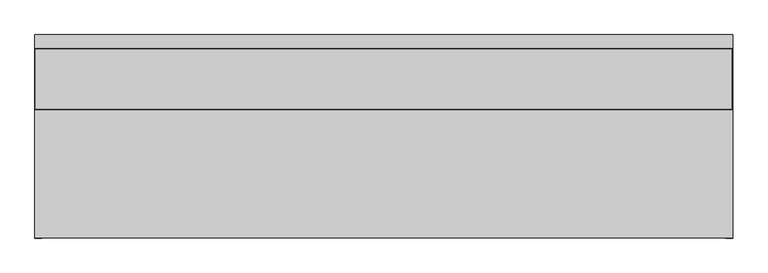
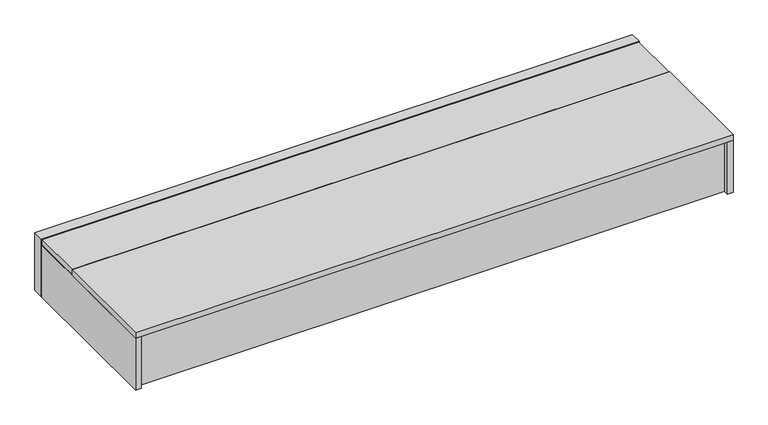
"""IFC4 building model written with IfcOpenShell, lengths in millimetres: proxy geometry, FOUNDATION^PO3_WIRE WALL-PARTS SOLID."""

import ifcopenshell
import ifcopenshell.guid

model = None  # the IFC model being written
_history = None  # IfcOwnerHistory: only IFC2X3 demands one
_inside = {}  # id of a spatial element -> (the spatial element, [elements in it])
_under = {}  # id of a project, library or spatial element -> (it, [spatial elements below it])
_declared = {}  # id of a project -> (the project, [libraries it declares])
_typed = {}  # id of a type object -> (the type object, [elements of that type])
_made_of = {}  # id of a material, layer set ... -> (it, [elements and type objects made of it])


def new_model(schema):
    """Start an empty IFC model of exactly this schema.

    Asked for "IFC4X3", IfcOpenShell would pick the latest addendum, in which some entities
    have other attributes; the version numbers below select the first issue.
    IFC2X3 requires an IfcOwnerHistory on every rooted entity: one is made here for all.
    """
    global model, _history
    if schema == "IFC4X3":
        model = ifcopenshell.file(schema_version=(4, 3, 0, 0))
    else:
        model = ifcopenshell.file(schema=schema)
    _inside.clear()
    _under.clear()
    _declared.clear()
    _typed.clear()
    _made_of.clear()
    _history = None
    if model.schema == "IFC2X3":
        org = make("IfcOrganization", Name="unknown")
        user = make(
            "IfcPersonAndOrganization",
            ThePerson=make("IfcPerson", FamilyName="unknown"),
            TheOrganization=org,
        )
        app = make(
            "IfcApplication",
            ApplicationDeveloper=org,
            Version="unknown",
            ApplicationFullName="unknown",
            ApplicationIdentifier="unknown",
        )
        _history = make(
            "IfcOwnerHistory",
            OwningUser=user,
            OwningApplication=app,
            ChangeAction="ADDED",
            CreationDate=0,
        )
    return model


def make(cls, **values):
    """One entity of the class cls with the attributes given. An attribute that is None is left unset."""
    return model.create_entity(
        cls, **{name: value for name, value in values.items() if value is not None}
    )


def rooted(cls, **values):
    """An entity with a GlobalId (a new one), such as an element, a storey or a relation."""
    return make(cls, GlobalId=ifcopenshell.guid.new(), OwnerHistory=_history, **values)


def si_unit(unit_type, name, prefix=None):
    """IfcSIUnit, for example si_unit("LENGTHUNIT", "METRE", prefix="MILLI")."""
    return make("IfcSIUnit", UnitType=unit_type, Prefix=prefix, Name=name)


def assignment(units):
    """IfcUnitAssignment: the units of a project."""
    return None if units is None else make("IfcUnitAssignment", Units=units)


def point(xyz):
    """IfcCartesianPoint."""
    return None if xyz is None else make("IfcCartesianPoint", Coordinates=xyz)


def direction(xyz):
    """IfcDirection."""
    return None if xyz is None else make("IfcDirection", DirectionRatios=xyz)


def frame(location, z_axis=None, x_axis=None):
    """IfcAxis2Placement3D, a coordinate frame: its origin and axes. An axis left out is left unset."""
    return make(
        "IfcAxis2Placement3D",
        Location=point(location),
        Axis=direction(z_axis),
        RefDirection=direction(x_axis),
    )


def origin():
    """The frame at (0, 0, 0) with its axes left unset."""
    return frame((0.0, 0.0, 0.0))


def place(relative_to, where):
    """IfcLocalPlacement: puts the frame where relative to a parent placement (None: the world)."""
    return make(
        "IfcLocalPlacement", PlacementRelTo=relative_to, RelativePlacement=where
    )


def context(
    kind, dimensions, precision=None, world=None, true_north=None, identifier=None
):
    """IfcGeometricRepresentationContext, for example the 3D "Model" context."""
    return make(
        "IfcGeometricRepresentationContext",
        ContextIdentifier=identifier,
        ContextType=kind,
        CoordinateSpaceDimension=dimensions,
        Precision=precision,
        WorldCoordinateSystem=world,
        TrueNorth=true_north,
    )


def project(units=None, contexts=None):
    """IfcProject with its units and contexts."""
    return rooted(
        "IfcProject",
        Name="project",
        RepresentationContexts=contexts,
        UnitsInContext=assignment(units),
    )


def spatial(cls, under=None, at=None, **own):
    """A site, building, storey or space (cls), placed at a placement, below another one or the project."""
    s = rooted(cls, ObjectPlacement=at, **own)
    if under is not None:
        _under.setdefault(under.id(), (under, []))[1].append(s)
    return s


def polyline(points):
    """IfcPolyline through the points."""
    return make("IfcPolyline", Points=[point(p) for p in points])


def outline(outer, holes=None, kind="AREA"):
    """IfcArbitraryClosedProfileDef: a profile drawn as a closed curve; with holes, ...WithVoids."""
    if holes is None:
        return make("IfcArbitraryClosedProfileDef", ProfileType=kind, OuterCurve=outer)
    return make(
        "IfcArbitraryProfileDefWithVoids",
        ProfileType=kind,
        OuterCurve=outer,
        InnerCurves=holes,
    )


def extrude(swept, where, along, depth):
    """IfcExtrudedAreaSolid: the profile swept, set in the frame where, extruded along a direction by depth."""
    return make(
        "IfcExtrudedAreaSolid",
        SweptArea=swept,
        Position=where,
        ExtrudedDirection=direction(along),
        Depth=depth,
    )


def shape(context_of_items, identifier, shape_type, items):
    """IfcShapeRepresentation: the items that make up one representation, for example the "Body"."""
    return make(
        "IfcShapeRepresentation",
        ContextOfItems=context_of_items,
        RepresentationIdentifier=identifier,
        RepresentationType=shape_type,
        Items=items,
    )


def source(mapping_origin, context_of_items, identifier, shape_type, items):
    """IfcRepresentationMap: a shape defined once, which mapped items show again and again."""
    return make(
        "IfcRepresentationMap",
        MappingOrigin=mapping_origin,
        MappedRepresentation=shape(context_of_items, identifier, shape_type, items),
    )


def transform(
    local_origin,
    x_axis=None,
    y_axis=None,
    z_axis=None,
    scale=None,
    scale2=None,
    scale3=None,
    uniform=True,
):
    """IfcCartesianTransformationOperator3D, or its non-uniform kind. x_axis, y_axis, z_axis: its Axis1, 2, 3."""
    if uniform:
        return make(
            "IfcCartesianTransformationOperator3D",
            Axis1=direction(x_axis),
            Axis2=direction(y_axis),
            LocalOrigin=point(local_origin),
            Scale=scale,
            Axis3=direction(z_axis),
        )
    return make(
        "IfcCartesianTransformationOperator3DnonUniform",
        Axis1=direction(x_axis),
        Axis2=direction(y_axis),
        LocalOrigin=point(local_origin),
        Scale=scale,
        Axis3=direction(z_axis),
        Scale2=scale2,
        Scale3=scale3,
    )


def mapped(mapping_source, mapping_target):
    """IfcMappedItem: shows the shape of a source again, moved by a transform."""
    return make(
        "IfcMappedItem", MappingSource=mapping_source, MappingTarget=mapping_target
    )


def made_of(thing, what):
    """Note that an element or type object is made of a material, layer set ...; save() writes the relation."""
    if what is not None:
        _made_of.setdefault(what.id(), (what, []))[1].append(thing)
    return thing


def element(
    cls,
    number,
    at=None,
    inside=None,
    cuts=None,
    type_object=None,
    material=None,
    context=None,
    identifier="Body",
    shape_type=None,
    held_by="IfcProductDefinitionShape",
    body=None,
    shapes=None,
    **own,
):
    """One element of the class cls, such as IfcWall. Its Tag is "e" and its number.

    at: its placement. inside: the storey or other place that contains it. cuts: it is an
    opening in that element (IfcRelVoidsElement). A single representation is given by context,
    identifier, shape_type and body (its items); several are given by shapes. held_by: the class
    of the entity that holds the representations. save() writes the other relations.
    """
    e = rooted(cls, Tag="e%d" % number, ObjectPlacement=at, **own)
    if body is not None:
        shapes = [shape(context, identifier, shape_type, body)]
    if shapes is not None:
        e.Representation = make(held_by, Representations=shapes)
    if inside is not None:
        _inside.setdefault(inside.id(), (inside, []))[1].append(e)
    if cuts is not None:
        rooted(
            "IfcRelVoidsElement", RelatingBuildingElement=cuts, RelatedOpeningElement=e
        )
    if type_object is not None:
        _typed.setdefault(type_object.id(), (type_object, []))[1].append(e)
    return made_of(e, material)


def aggregate(whole, parts):
    """IfcRelAggregates: a whole, such as a stair, and the parts it consists of."""
    return rooted("IfcRelAggregates", RelatingObject=whole, RelatedObjects=parts)


def save(model, path):
    """Write the relations noted so far, then the file.

    IfcRelAggregates (storeys below a building ...), IfcRelContainedInSpatialStructure (elements
    in a storey), IfcRelDefinesByType, IfcRelAssociatesMaterial and IfcRelDeclares: one each for
    every whole, place, type object, material and project.
    """
    for whole, parts in _under.values():
        aggregate(whole, parts)
    for where, things in _inside.values():
        rooted(
            "IfcRelContainedInSpatialStructure",
            RelatedElements=things,
            RelatingStructure=where,
        )
    for kind, things in _typed.values():
        rooted("IfcRelDefinesByType", RelatedObjects=things, RelatingType=kind)
    for what, things in _made_of.values():
        rooted("IfcRelAssociatesMaterial", RelatedObjects=things, RelatingMaterial=what)
    for by, libraries in _declared.values():
        rooted("IfcRelDeclares", RelatingContext=by, RelatedDefinitions=libraries)
    model.write(path)


def generic_models_7db85d77(model_context):
    return source(origin(), model_context, "Body", "SweptSolid", [
        extrude(outline(polyline([(2003.425, -177.8), (2003.425, -546.1), (0.0, -546.1), (0.0, -177.8), (2003.425, -177.8)])), frame((0.0, 0.0, -19.05), z_axis=(0.0, 0.0, 1.0), x_axis=(1.0, 0.0, 0.0)), (0.0, 0.0, 1.0), 19.05),
        extrude(outline(polyline([(1984.375, 0.0), (2003.425, 0.0), (2003.425, -546.1), (1984.375, -546.1), (1984.375, 0.0)])), frame((0.0, 0.0, -203.2), z_axis=(0.0, 0.0, 1.0), x_axis=(1.0, 0.0, 0.0)), (0.0, 0.0, 1.0), 184.15),
        extrude(outline(polyline([(1984.375, -530.7076), (19.05, -530.7076), (19.05, -492.6076), (1984.375, -492.6076), (1984.375, -530.7076)])), frame((0.0, 0.0, -203.2), z_axis=(0.0, 0.0, 1.0), x_axis=(1.0, 0.0, 0.0)), (0.0, 0.0, 1.0), 184.15),
        extrude(outline(polyline([(0.0, 0.0), (19.05, 0.0), (19.05, -546.1), (0.0, -546.1), (0.0, 0.0)])), frame((0.0, 0.0, -203.2), z_axis=(0.0, 0.0, 1.0), x_axis=(1.0, 0.0, 0.0)), (0.0, 0.0, 1.0), 184.15),
        extrude(outline(polyline([(2001.04375, -175.41875), (1.190625, -175.41875), (1.190625, -3.175), (2001.04375, -3.175), (2001.04375, -175.41875)])), frame((0.0, 0.0, -19.05), z_axis=(0.0, 0.0, 1.0), x_axis=(1.0, 0.0, 0.0)), (0.0, 0.0, 1.0), 19.05),
        extrude(outline(polyline([(2003.425, 0.0), (0.0, 0.0), (0.0, 38.1), (2003.425, 38.1), (2003.425, 0.0)])), frame((0.0, 0.0, -203.2), z_axis=(0.0, 0.0, 1.0), x_axis=(1.0, 0.0, 0.0)), (0.0, 0.0, 1.0), 203.2),
    ])


if __name__ == "__main__":
    model = new_model("IFC4")
    model_context = context("Model", 3, world=origin())
    ifc_project = project(units=[si_unit("LENGTHUNIT", "METRE", prefix="MILLI")], contexts=[model_context])
    site = spatial("IfcSite", under=ifc_project)
    building = spatial("IfcBuilding", under=site)
    placement = place(None, origin())
    generic_models_shape = generic_models_7db85d77(model_context)
    element("IfcBuildingElementProxy", 1, Name="FOUNDATION^PO3_WIRE WALL-PARTS SOLID", ObjectType="FOUNDATION^PO3_WIRE WALL-PARTS SOLID", at=placement, inside=building, context=model_context, shape_type="MappedRepresentation", body=[
        mapped(generic_models_shape, transform((0.0, 0.0, 0.0), x_axis=(1.0, 0.0, 0.0), y_axis=(0.0, 1.0, 0.0), z_axis=(0.0, 0.0, 1.0))),
    ])
    save(model, "model.ifc")
